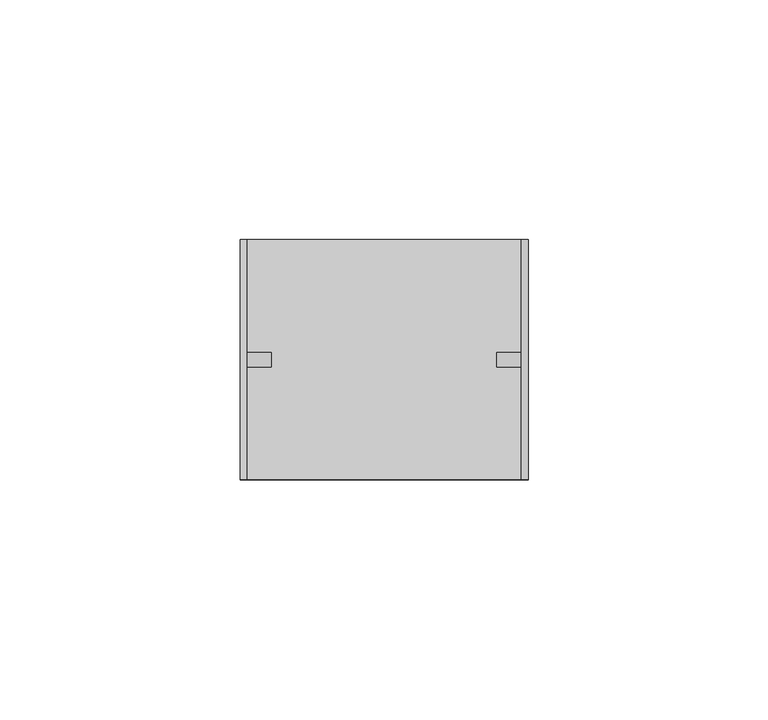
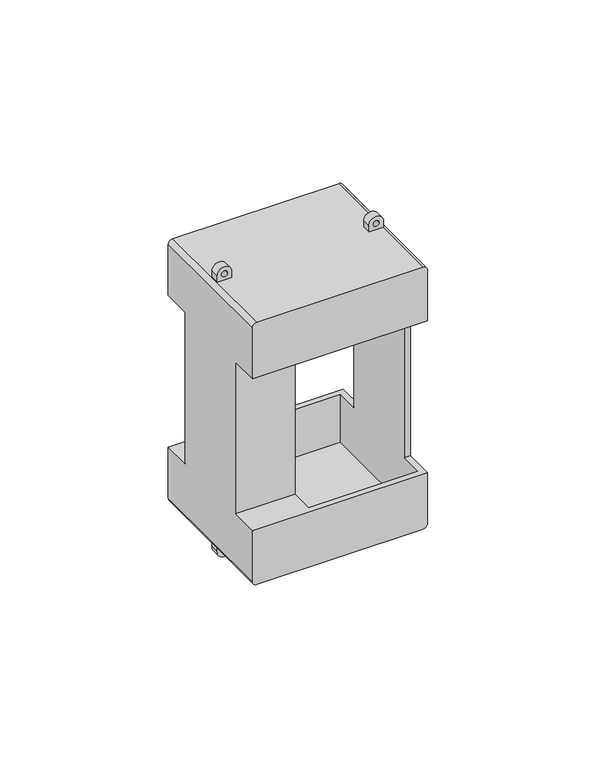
"""IFC4 building model written with IfcOpenShell, lengths in millimetres: proxy geometry, БОМ-2_3 : БОМ 2/3."""

import ifcopenshell
import ifcopenshell.guid

model = None  # the IFC model being written
_history = None  # IfcOwnerHistory: only IFC2X3 demands one
_inside = {}  # id of a spatial element -> (the spatial element, [elements in it])
_under = {}  # id of a project, library or spatial element -> (it, [spatial elements below it])
_declared = {}  # id of a project -> (the project, [libraries it declares])
_typed = {}  # id of a type object -> (the type object, [elements of that type])
_made_of = {}  # id of a material, layer set ... -> (it, [elements and type objects made of it])


def new_model(schema):
    """Start an empty IFC model of exactly this schema.

    Asked for "IFC4X3", IfcOpenShell would pick the latest addendum, in which some entities
    have other attributes; the version numbers below select the first issue.
    IFC2X3 requires an IfcOwnerHistory on every rooted entity: one is made here for all.
    """
    global model, _history
    if schema == "IFC4X3":
        model = ifcopenshell.file(schema_version=(4, 3, 0, 0))
    else:
        model = ifcopenshell.file(schema=schema)
    _inside.clear()
    _under.clear()
    _declared.clear()
    _typed.clear()
    _made_of.clear()
    _history = None
    if model.schema == "IFC2X3":
        org = make("IfcOrganization", Name="unknown")
        user = make(
            "IfcPersonAndOrganization",
            ThePerson=make("IfcPerson", FamilyName="unknown"),
            TheOrganization=org,
        )
        app = make(
            "IfcApplication",
            ApplicationDeveloper=org,
            Version="unknown",
            ApplicationFullName="unknown",
            ApplicationIdentifier="unknown",
        )
        _history = make(
            "IfcOwnerHistory",
            OwningUser=user,
            OwningApplication=app,
            ChangeAction="ADDED",
            CreationDate=0,
        )
    return model


def make(cls, **values):
    """One entity of the class cls with the attributes given. An attribute that is None is left unset."""
    return model.create_entity(
        cls, **{name: value for name, value in values.items() if value is not None}
    )


def rooted(cls, **values):
    """An entity with a GlobalId (a new one), such as an element, a storey or a relation."""
    return make(cls, GlobalId=ifcopenshell.guid.new(), OwnerHistory=_history, **values)


def si_unit(unit_type, name, prefix=None):
    """IfcSIUnit, for example si_unit("LENGTHUNIT", "METRE", prefix="MILLI")."""
    return make("IfcSIUnit", UnitType=unit_type, Prefix=prefix, Name=name)


def assignment(units):
    """IfcUnitAssignment: the units of a project."""
    return None if units is None else make("IfcUnitAssignment", Units=units)


def point(xyz):
    """IfcCartesianPoint."""
    return None if xyz is None else make("IfcCartesianPoint", Coordinates=xyz)


def direction(xyz):
    """IfcDirection."""
    return None if xyz is None else make("IfcDirection", DirectionRatios=xyz)


def frame(location, z_axis=None, x_axis=None):
    """IfcAxis2Placement3D, a coordinate frame: its origin and axes. An axis left out is left unset."""
    return make(
        "IfcAxis2Placement3D",
        Location=point(location),
        Axis=direction(z_axis),
        RefDirection=direction(x_axis),
    )


def frame_2d(location, x_axis=None):
    """IfcAxis2Placement2D, a coordinate frame in the plane: its origin and x axis."""
    return make(
        "IfcAxis2Placement2D", Location=point(location), RefDirection=direction(x_axis)
    )


def origin():
    """The frame at (0, 0, 0) with its axes left unset."""
    return frame((0.0, 0.0, 0.0))


def place(relative_to, where):
    """IfcLocalPlacement: puts the frame where relative to a parent placement (None: the world)."""
    return make(
        "IfcLocalPlacement", PlacementRelTo=relative_to, RelativePlacement=where
    )


def context(
    kind, dimensions, precision=None, world=None, true_north=None, identifier=None
):
    """IfcGeometricRepresentationContext, for example the 3D "Model" context."""
    return make(
        "IfcGeometricRepresentationContext",
        ContextIdentifier=identifier,
        ContextType=kind,
        CoordinateSpaceDimension=dimensions,
        Precision=precision,
        WorldCoordinateSystem=world,
        TrueNorth=true_north,
    )


def project(units=None, contexts=None):
    """IfcProject with its units and contexts."""
    return rooted(
        "IfcProject",
        Name="project",
        RepresentationContexts=contexts,
        UnitsInContext=assignment(units),
    )


def spatial(cls, under=None, at=None, **own):
    """A site, building, storey or space (cls), placed at a placement, below another one or the project."""
    s = rooted(cls, ObjectPlacement=at, **own)
    if under is not None:
        _under.setdefault(under.id(), (under, []))[1].append(s)
    return s


def polyline(points):
    """IfcPolyline through the points."""
    return make("IfcPolyline", Points=[point(p) for p in points])


def circle_curve(where, radius):
    """IfcCircle in the frame where."""
    return make("IfcCircle", Position=where, Radius=radius)


def trimmed(basis, trim1, trim2, sense, master):
    """IfcTrimmedCurve: the piece of a basis curve between two trims."""
    return make(
        "IfcTrimmedCurve",
        BasisCurve=basis,
        Trim1=trim1,
        Trim2=trim2,
        SenseAgreement=sense,
        MasterRepresentation=master,
    )


def segment(curve, same_sense, transition):
    """IfcCompositeCurveSegment."""
    return make(
        "IfcCompositeCurveSegment",
        Transition=transition,
        SameSense=same_sense,
        ParentCurve=curve,
    )


def composite_curve(segments, self_intersect=None):
    """IfcCompositeCurve: segments joined end to end."""
    return make("IfcCompositeCurve", Segments=segments, SelfIntersect=self_intersect)


def outline(outer, holes=None, kind="AREA"):
    """IfcArbitraryClosedProfileDef: a profile drawn as a closed curve; with holes, ...WithVoids."""
    if holes is None:
        return make("IfcArbitraryClosedProfileDef", ProfileType=kind, OuterCurve=outer)
    return make(
        "IfcArbitraryProfileDefWithVoids",
        ProfileType=kind,
        OuterCurve=outer,
        InnerCurves=holes,
    )


def extrude(swept, where, along, depth):
    """IfcExtrudedAreaSolid: the profile swept, set in the frame where, extruded along a direction by depth."""
    return make(
        "IfcExtrudedAreaSolid",
        SweptArea=swept,
        Position=where,
        ExtrudedDirection=direction(along),
        Depth=depth,
    )


def shape(context_of_items, identifier, shape_type, items):
    """IfcShapeRepresentation: the items that make up one representation, for example the "Body"."""
    return make(
        "IfcShapeRepresentation",
        ContextOfItems=context_of_items,
        RepresentationIdentifier=identifier,
        RepresentationType=shape_type,
        Items=items,
    )


def source(mapping_origin, context_of_items, identifier, shape_type, items):
    """IfcRepresentationMap: a shape defined once, which mapped items show again and again."""
    return make(
        "IfcRepresentationMap",
        MappingOrigin=mapping_origin,
        MappedRepresentation=shape(context_of_items, identifier, shape_type, items),
    )


def transform(
    local_origin,
    x_axis=None,
    y_axis=None,
    z_axis=None,
    scale=None,
    scale2=None,
    scale3=None,
    uniform=True,
):
    """IfcCartesianTransformationOperator3D, or its non-uniform kind. x_axis, y_axis, z_axis: its Axis1, 2, 3."""
    if uniform:
        return make(
            "IfcCartesianTransformationOperator3D",
            Axis1=direction(x_axis),
            Axis2=direction(y_axis),
            LocalOrigin=point(local_origin),
            Scale=scale,
            Axis3=direction(z_axis),
        )
    return make(
        "IfcCartesianTransformationOperator3DnonUniform",
        Axis1=direction(x_axis),
        Axis2=direction(y_axis),
        LocalOrigin=point(local_origin),
        Scale=scale,
        Axis3=direction(z_axis),
        Scale2=scale2,
        Scale3=scale3,
    )


def mapped(mapping_source, mapping_target):
    """IfcMappedItem: shows the shape of a source again, moved by a transform."""
    return make(
        "IfcMappedItem", MappingSource=mapping_source, MappingTarget=mapping_target
    )


def made_of(thing, what):
    """Note that an element or type object is made of a material, layer set ...; save() writes the relation."""
    if what is not None:
        _made_of.setdefault(what.id(), (what, []))[1].append(thing)
    return thing


def element(
    cls,
    number,
    at=None,
    inside=None,
    cuts=None,
    type_object=None,
    material=None,
    context=None,
    identifier="Body",
    shape_type=None,
    held_by="IfcProductDefinitionShape",
    body=None,
    shapes=None,
    **own,
):
    """One element of the class cls, such as IfcWall. Its Tag is "e" and its number.

    at: its placement. inside: the storey or other place that contains it. cuts: it is an
    opening in that element (IfcRelVoidsElement). A single representation is given by context,
    identifier, shape_type and body (its items); several are given by shapes. held_by: the class
    of the entity that holds the representations. save() writes the other relations.
    """
    e = rooted(cls, Tag="e%d" % number, ObjectPlacement=at, **own)
    if body is not None:
        shapes = [shape(context, identifier, shape_type, body)]
    if shapes is not None:
        e.Representation = make(held_by, Representations=shapes)
    if inside is not None:
        _inside.setdefault(inside.id(), (inside, []))[1].append(e)
    if cuts is not None:
        rooted(
            "IfcRelVoidsElement", RelatingBuildingElement=cuts, RelatedOpeningElement=e
        )
    if type_object is not None:
        _typed.setdefault(type_object.id(), (type_object, []))[1].append(e)
    return made_of(e, material)


def aggregate(whole, parts):
    """IfcRelAggregates: a whole, such as a stair, and the parts it consists of."""
    return rooted("IfcRelAggregates", RelatingObject=whole, RelatedObjects=parts)


def save(model, path):
    """Write the relations noted so far, then the file.

    IfcRelAggregates (storeys below a building ...), IfcRelContainedInSpatialStructure (elements
    in a storey), IfcRelDefinesByType, IfcRelAssociatesMaterial and IfcRelDeclares: one each for
    every whole, place, type object, material and project.
    """
    for whole, parts in _under.values():
        aggregate(whole, parts)
    for where, things in _inside.values():
        rooted(
            "IfcRelContainedInSpatialStructure",
            RelatedElements=things,
            RelatingStructure=where,
        )
    for kind, things in _typed.values():
        rooted("IfcRelDefinesByType", RelatedObjects=things, RelatingType=kind)
    for what, things in _made_of.values():
        rooted("IfcRelAssociatesMaterial", RelatedObjects=things, RelatingMaterial=what)
    for by, libraries in _declared.values():
        rooted("IfcRelDeclares", RelatingContext=by, RelatedDefinitions=libraries)
    model.write(path)


def plane_surface(at):
    """IfcPlane: the flat surface through the origin of the frame at, square to its z axis."""
    return make("IfcPlane", Position=at)


def cylinder_surface(at, radius):
    """IfcCylindricalSurface: all points at the distance radius from the z axis of the frame at."""
    return make("IfcCylindricalSurface", Position=at, Radius=radius)


def advanced_brep(points, edges, surfaces, faces):
    """IfcAdvancedBrep: a solid bounded by faces that lie on surfaces and meet in shared edges.

    An edge is (start, end): straight between two places in points (the first is 0);
    or (start, end, curve); or (start, end, curve, False) where it runs against its curve.
    A face is (place in surfaces, loops), or (place, loops, False) where it looks against
    its surface's normal. A loop lists edges by number (the first is 1), with a minus sign
    where the edge is run from its end to its start. The first loop is the outer one.
    """
    corners = [point(p) for p in points]
    vertices = [make("IfcVertexPoint", VertexGeometry=c) for c in corners]
    made = []
    for start, end, *more in edges:
        made.append(
            make(
                "IfcEdgeCurve",
                EdgeStart=vertices[start],
                EdgeEnd=vertices[end],
                EdgeGeometry=more[0] if more else make("IfcPolyline", Points=[corners[start], corners[end]]),
                SameSense=more[1] if len(more) > 1 else True,
            )
        )
    hull = []
    for where, loops, *sense in faces:
        bounds = []
        for j, loop in enumerate(loops):
            ring = [make("IfcOrientedEdge", EdgeElement=made[abs(k) - 1], Orientation=k > 0) for k in loop]
            bounds.append(
                make(
                    "IfcFaceOuterBound" if j == 0 else "IfcFaceBound",
                    Bound=make("IfcEdgeLoop", EdgeList=ring),
                    Orientation=True,
                )
            )
        hull.append(make("IfcAdvancedFace", Bounds=bounds, FaceSurface=surfaces[where], SameSense=sense[0] if sense else True))
    return make("IfcAdvancedBrep", Outer=make("IfcClosedShell", CfsFaces=hull))


def electrical_equipment_7104ac90(model_context):
    return source(origin(), model_context, "Body", "SolidModel", [
        advanced_brep(
        [(28.5143257, 0.0, 95.0), (-28.4856743, 0.0, 95.0), (-29.9856743, 0.0, 93.5), (-29.9856743, 0.0, 75.0), (30.0143257, 0.0, 75.0), (30.0143257, 0.0, 93.5), (-29.9856743, 0.0, 1.5), (-28.4856743, 0.0, 0.0), (28.5143257, 0.0, 0.0), (30.0143257, 0.0, 1.5), (30.0143257, 0.0, 20.0), (-29.9856743, 0.0, 20.0), (28.5143257, 50.0, 95.0), (30.0143257, 50.0, 93.5), (30.0143257, 50.0, 75.0), (-29.9856743, 50.0, 75.0), (-29.9856743, 50.0, 93.5), (-28.4856743, 50.0, 95.0), (30.0143257, 50.0, 1.5), (28.5143257, 50.0, 0.0), (-28.4856743, 50.0, 0.0), (-29.9856743, 50.0, 1.5), (-29.9856743, 50.0, 20.0), (30.0143257, 50.0, 20.0), (28.0, 40.0, 20.0), (30.0, 40.0, 20.0), (-29.9856743, 40.0, 20.0), (-9.5549248, 40.0, 20.0), (-9.5549248, 48.0, 20.0), (28.0, 48.0, 20.0), (30.0143257, 10.0, 20.0), (28.0, 10.0, 20.0), (28.0, 2.0, 20.0), (-9.5549248, 2.0, 20.0), (-9.5549248, 10.0, 20.0), (-29.9856743, 10.0, 20.0), (-9.5549248, 40.0, 75.0), (-9.5549248, 48.0, 75.0), (-9.5549248, 48.0, 92.5250047), (-9.5549248, 2.0, 92.5250047), (-9.5549248, 2.0, 75.0), (-9.5549248, 10.0, 75.0), (-9.5549248, 2.0, 2.6097156), (-9.5549248, 48.0, 2.6097156), (-30.0, 40.0, 75.0), (30.0143257, 40.0, 75.0), (28.0, 40.0, 75.0), (28.0, 48.0, 75.0), (-29.9856743, 10.0, 75.0), (28.0, 2.0, 75.0), (28.0, 10.0, 75.0), (30.0143257, 10.0, 75.0), (28.0, 48.0, 2.6097156), (28.0, 2.0, 2.6097156), (28.0, 2.0, 92.5250047), (28.0, 48.0, 92.5250047)],
        [
            (0, 1),
            (1, 2, circle_curve(frame((-28.4856743, 0.0, 93.5), z_axis=(0.0, -1.0, 0.0), x_axis=(1.0, 0.0, 0.0)), 1.5)),
            (2, 3),
            (3, 4),
            (4, 5),
            (5, 0, circle_curve(frame((28.5143257, 0.0, 93.5), z_axis=(0.0, -1.0, 0.0), x_axis=(1.0, 0.0, 0.0)), 1.5)),
            (6, 7, circle_curve(frame((-28.4856743, 0.0, 1.5), z_axis=(0.0, -1.0, 0.0), x_axis=(1.0, 0.0, 0.0)), 1.5)),
            (7, 8),
            (8, 9, circle_curve(frame((28.5143257, 0.0, 1.5), z_axis=(0.0, -1.0, 0.0), x_axis=(1.0, 0.0, 0.0)), 1.5)),
            (9, 10),
            (10, 11),
            (11, 6),
            (12, 13, circle_curve(frame((28.5143257, 50.0, 93.5), z_axis=(0.0, 1.0, 0.0), x_axis=(1.0, 0.0, 0.0)), 1.5)),
            (13, 14),
            (14, 15),
            (15, 16),
            (16, 17, circle_curve(frame((-28.4856743, 50.0, 93.5), z_axis=(0.0, 1.0, 0.0), x_axis=(1.0, 0.0, 0.0)), 1.5)),
            (17, 12),
            (18, 19, circle_curve(frame((28.5143257, 50.0, 1.5), z_axis=(0.0, 1.0, 0.0), x_axis=(1.0, 0.0, 0.0)), 1.5)),
            (19, 20),
            (20, 21, circle_curve(frame((-28.4856743, 50.0, 1.5), z_axis=(0.0, 1.0, 0.0), x_axis=(1.0, 0.0, 0.0)), 1.5)),
            (21, 22),
            (22, 23),
            (23, 18),
            (24, 25),
            (25, 23),
            (22, 26),
            (26, 27),
            (27, 28),
            (28, 29),
            (29, 24),
            (30, 31),
            (31, 32),
            (32, 33),
            (33, 34),
            (34, 35),
            (35, 11),
            (10, 30),
            (27, 36),
            (36, 37),
            (37, 38),
            (38, 39),
            (39, 40),
            (40, 41),
            (41, 34),
            (33, 42),
            (42, 43),
            (43, 28),
            (36, 44),
            (44, 15),
            (14, 45),
            (45, 46),
            (46, 47),
            (47, 37),
            (48, 41),
            (40, 49),
            (49, 50),
            (50, 51),
            (51, 4),
            (3, 48),
            (46, 24),
            (29, 52),
            (52, 53),
            (53, 32),
            (31, 50),
            (49, 54),
            (54, 55),
            (55, 47),
            (0, 12),
            (17, 1),
            (16, 2),
            (44, 26),
            (21, 6),
            (35, 48),
            (20, 7),
            (19, 8),
            (18, 9),
            (25, 45),
            (13, 5),
            (51, 30),
            (52, 43),
            (42, 53),
            (54, 39),
            (38, 55),
        ],
        [
            plane_surface(frame((-28.0, 0.0, 20.0), z_axis=(0.0, -1.0, 0.0), x_axis=(-1.0, 0.0, 0.0))),
            plane_surface(frame((-28.0, 50.0, 20.0), z_axis=(0.0, 1.0, 0.0), x_axis=(1.0, 0.0, 0.0))),
            plane_surface(frame((28.0, 0.0, 20.0), z_axis=(0.0, 0.0, 1.0), x_axis=(0.0, 1.0, 0.0))),
            plane_surface(frame((-9.5549248, 0.0, 20.0), z_axis=(1.0, 0.0, 0.0), x_axis=(0.0, 1.0, 0.0))),
            plane_surface(frame((-9.5549248, 0.0, 75.0), z_axis=(0.0, 0.0, -1.0), x_axis=(0.0, 1.0, 0.0))),
            plane_surface(frame((28.0, 0.0, 75.0), z_axis=(-1.0, 0.0, 0.0), x_axis=(0.0, 1.0, 0.0))),
            plane_surface(frame((28.5143257, 0.0, 95.0), z_axis=(0.0, 0.0, 1.0), x_axis=(0.0, 1.0, 0.0))),
            cylinder_surface(frame((-28.4856743, 46.0, 93.5), z_axis=(0.0, -1.0, 0.0), x_axis=(1.0, 0.0, 0.0)), 1.5),
            plane_surface(frame((-29.9856743, 0.0, 93.5), z_axis=(-1.0, 0.0, 0.0), x_axis=(0.0, 1.0, 0.0))),
            cylinder_surface(frame((-28.4856743, 46.0, 1.5), z_axis=(0.0, -1.0, 0.0), x_axis=(1.0, 0.0, 0.0)), 1.5),
            plane_surface(frame((-28.4856743, 0.0, 0.0), z_axis=(0.0, 0.0, -1.0), x_axis=(0.0, 1.0, 0.0))),
            cylinder_surface(frame((28.5143257, 46.0, 1.5), z_axis=(0.0, -1.0, 0.0), x_axis=(1.0, 0.0, 0.0)), 1.5),
            plane_surface(frame((30.0143257, 0.0, 1.5), z_axis=(1.0, 0.0, 0.0), x_axis=(0.0, 1.0, 0.0))),
            cylinder_surface(frame((28.5143257, 46.0, 93.5), z_axis=(0.0, -1.0, 0.0), x_axis=(1.0, 0.0, 0.0)), 1.5),
            plane_surface(frame((30.0, 40.0, 75.0), z_axis=(0.0, 1.0, 0.0), x_axis=(-1.0, 0.0, 0.0))),
            plane_surface(frame((30.0143257, 10.0, 20.0), z_axis=(0.0, -1.0, 0.0), x_axis=(-1.0, 0.0, 0.0))),
            plane_surface(frame((-27.9856743, 48.0, 2.6097156), z_axis=(0.0, 0.0, 1.0), x_axis=(1.0, 0.0, 0.0))),
            plane_surface(frame((28.0, 48.0, 20.0), z_axis=(0.0, -1.0, 0.0), x_axis=(0.0, 0.0, -1.0))),
            plane_surface(frame((-9.5549248, 2.0, 20.0), z_axis=(0.0, 1.0, 0.0), x_axis=(0.0, 0.0, -1.0))),
            plane_surface(frame((-27.9856743, 48.0, 92.5250047), z_axis=(0.0, 0.0, -1.0), x_axis=(-1.0, 0.0, 0.0))),
            plane_surface(frame((28.0, 48.0, 92.5250047), z_axis=(0.0, -1.0, 0.0), x_axis=(0.0, 0.0, -1.0))),
            plane_surface(frame((-9.5549248, 2.0, 92.5250047), z_axis=(0.0, 1.0, 0.0), x_axis=(0.0, 0.0, -1.0))),
        ],
        [
            (0, [[1, 2, 3, 4, 5, 6]]),
            (0, [[7, 8, 9, 10, 11, 12]]),
            (1, [[13, 14, 15, 16, 17, 18]]),
            (1, [[19, 20, 21, 22, 23, 24]]),
            (2, [[25, 26, -23, 27, 28, 29, 30, 31]]),
            (2, [[32, 33, 34, 35, 36, 37, -11, 38]]),
            (3, [[39, 40, 41, 42, 43, 44, 45, -35, 46, 47, 48, -29]]),
            (4, [[49, 50, -15, 51, 52, 53, 54, -40]]),
            (4, [[55, -44, 56, 57, 58, 59, -4, 60]]),
            (5, [[61, -31, 62, 63, 64, -33, 65, -57, 66, 67, 68, -53]]),
            (6, [[-1, 69, -18, 70]]),
            (7, [[-2, -70, -17, 71]]),
            (8, [[-71, -16, -50, 72, -27, -22, 73, -12, -37, 74, -60, -3]]),
            (9, [[-7, -73, -21, 75]]),
            (10, [[-8, -75, -20, 76]]),
            (11, [[-9, -76, -19, 77]]),
            (12, [[-77, -24, -26, 78, -51, -14, 79, -5, -59, 80, -38, -10]]),
            (13, [[-6, -79, -13, -69]]),
            (14, [[-25, -61, -52, -78]]),
            (14, [[-28, -72, -49, -39]]),
            (15, [[-32, -80, -58, -65]]),
            (15, [[-36, -45, -55, -74]]),
            (16, [[81, -47, 82, -63]]),
            (17, [[-81, -62, -30, -48]]),
            (18, [[-82, -46, -34, -64]]),
            (19, [[-67, 83, -42, 84]]),
            (20, [[-84, -41, -54, -68]]),
            (21, [[-83, -66, -56, -43]]),
        ],
    ),
        extrude(outline(composite_curve([segment(trimmed(circle_curve(frame_2d((97.5, 26.0143257)), 2.5), [point((97.5, 28.5143257))], [point((97.5, 23.5143257))], False, "CARTESIAN"), True, "CONTINUOUS"), segment(polyline([(97.5, 23.5143257), (95.0, 23.5143257), (95.0, 28.5143257), (97.5, 28.5143257)]), True, "CONTINUOUS")], self_intersect=False), holes=[composite_curve([segment(trimmed(circle_curve(frame_2d((97.5, 26.0143257)), 1.0), [point((97.5, 25.0143257))], [point((97.5, 27.0143257))], True, "CARTESIAN"), True, "CONTINUOUS"), segment(trimmed(circle_curve(frame_2d((97.5, 26.0143257)), 1.0), [point((97.5, 27.0143257))], [point((97.5, 25.0143257))], True, "CARTESIAN"), True, "CONTINUOUS")], self_intersect=False)]), frame((0.0, 23.5, 0.0), z_axis=(0.0, 1.0, 0.0), x_axis=(0.0, 0.0, 1.0)), (0.0, 0.0, 1.0), 3.0),
        extrude(outline(composite_curve([segment(polyline([(97.5, -28.5143257), (95.0, -28.5143257), (95.0, -23.5143257), (97.5, -23.5143257)]), True, "CONTINUOUS"), segment(trimmed(circle_curve(frame_2d((97.5, -26.0143257)), 2.5), [point((97.5, -23.5143257))], [point((97.5, -28.5143257))], False, "CARTESIAN"), True, "CONTINUOUS")], self_intersect=False), holes=[composite_curve([segment(trimmed(circle_curve(frame_2d((97.5, -26.0143257)), 1.0), [point((97.5, -27.0143257))], [point((97.5, -25.0143257))], True, "CARTESIAN"), True, "CONTINUOUS"), segment(trimmed(circle_curve(frame_2d((97.5, -26.0143257)), 1.0), [point((97.5, -25.0143257))], [point((97.5, -27.0143257))], True, "CARTESIAN"), True, "CONTINUOUS")], self_intersect=False)]), frame((0.0, 23.5, 0.0), z_axis=(0.0, 1.0, 0.0), x_axis=(0.0, 0.0, 1.0)), (0.0, 0.0, 1.0), 3.0),
        extrude(outline(composite_curve([segment(polyline([(-2.5, 28.5143257), (0.0, 28.5143257), (0.0, 23.5143257), (-2.5, 23.5143257)]), True, "CONTINUOUS"), segment(trimmed(circle_curve(frame_2d((-2.5, 26.0143257)), 2.5), [point((-2.5, 23.5143257))], [point((-2.5, 28.5143257))], False, "CARTESIAN"), True, "CONTINUOUS")], self_intersect=False), holes=[composite_curve([segment(trimmed(circle_curve(frame_2d((-2.5, 26.0143257)), 1.0), [point((-2.5, 25.0143257))], [point((-2.5, 27.0143257))], True, "CARTESIAN"), True, "CONTINUOUS"), segment(trimmed(circle_curve(frame_2d((-2.5, 26.0143257)), 1.0), [point((-2.5, 27.0143257))], [point((-2.5, 25.0143257))], True, "CARTESIAN"), True, "CONTINUOUS")], self_intersect=False)]), frame((0.0, 23.5, 0.0), z_axis=(0.0, 1.0, 0.0), x_axis=(0.0, 0.0, 1.0)), (0.0, 0.0, 1.0), 3.0),
        extrude(outline(composite_curve([segment(trimmed(circle_curve(frame_2d((-2.5, -26.0143257)), 2.5), [point((-2.5, -28.5143257))], [point((-2.5, -23.5143257))], False, "CARTESIAN"), True, "CONTINUOUS"), segment(polyline([(-2.5, -23.5143257), (0.0, -23.5143257), (0.0, -28.5143257), (-2.5, -28.5143257)]), True, "CONTINUOUS")], self_intersect=False), holes=[composite_curve([segment(trimmed(circle_curve(frame_2d((-2.5, -26.0143257)), 1.0), [point((-2.5, -27.0143257))], [point((-2.5, -25.0143257))], True, "CARTESIAN"), True, "CONTINUOUS"), segment(trimmed(circle_curve(frame_2d((-2.5, -26.0143257)), 1.0), [point((-2.5, -25.0143257))], [point((-2.5, -27.0143257))], True, "CARTESIAN"), True, "CONTINUOUS")], self_intersect=False)]), frame((0.0, 23.5, 0.0), z_axis=(0.0, 1.0, 0.0), x_axis=(0.0, 0.0, 1.0)), (0.0, 0.0, 1.0), 3.0),
    ])


if __name__ == "__main__":
    model = new_model("IFC4")
    model_context = context("Model", 3, world=origin())
    ifc_project = project(units=[si_unit("LENGTHUNIT", "METRE", prefix="MILLI")], contexts=[model_context])
    site = spatial("IfcSite", under=ifc_project)
    building = spatial("IfcBuilding", under=site)
    placement = place(None, origin())
    electrical_equipment_shape = electrical_equipment_7104ac90(model_context)
    element("IfcBuildingElementProxy", 1, Name="БОМ-2_3 : БОМ 2/3", ObjectType="БОМ-2_3 : БОМ 2/3", at=placement, inside=building, context=model_context, shape_type="MappedRepresentation", body=[
        mapped(electrical_equipment_shape, transform((0.0, 0.0, 0.0), x_axis=(1.0, 0.0, 0.0), y_axis=(0.0, 1.0, 0.0), z_axis=(0.0, 0.0, 1.0))),
    ])
    save(model, "model.ifc")
